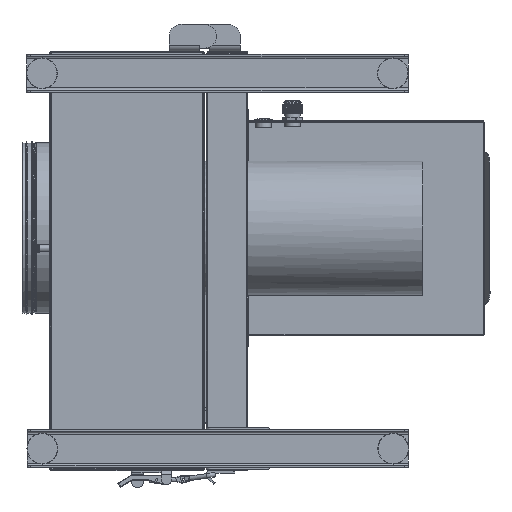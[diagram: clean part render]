
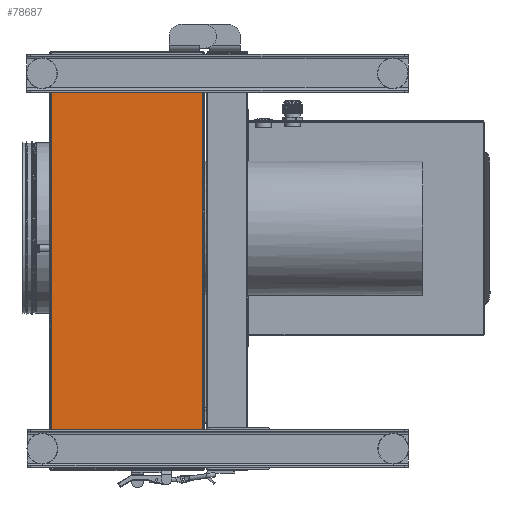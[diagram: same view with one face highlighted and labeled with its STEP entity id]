
A CAD part, left-side view. The second image highlights one B-rep face of the part: STEP entity #78687.
In plain terms, the highlighted planar face has unit normal (-1, 0, 0).
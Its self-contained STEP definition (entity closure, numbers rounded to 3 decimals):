
#10788=FACE_OUTER_BOUND('',#15047,.T.);
#15047=EDGE_LOOP('',(#62633,#62634,#62635,#62636));
#20054=LINE('',#119817,#27669);
#20129=LINE('',#120767,#27744);
#20206=LINE('',#121753,#27821);
#21179=LINE('',#128228,#28794);
#27669=VECTOR('',#92435,10.);
#27744=VECTOR('',#92594,10.);
#27821=VECTOR('',#92737,10.);
#28794=VECTOR('',#96636,10.);
#34774=VERTEX_POINT('',#118735);
#34779=VERTEX_POINT('',#118747);
#35385=VERTEX_POINT('',#120766);
#35444=VERTEX_POINT('',#121751);
#43956=EDGE_CURVE('',#34779,#34774,#20054,.T.);
#44076=EDGE_CURVE('',#35385,#34779,#20129,.T.);
#44186=EDGE_CURVE('',#34774,#35444,#20206,.T.);
#46081=EDGE_CURVE('',#35444,#35385,#21179,.T.);
#62633=ORIENTED_EDGE('',*,*,#46081,.T.);
#62634=ORIENTED_EDGE('',*,*,#44076,.T.);
#62635=ORIENTED_EDGE('',*,*,#43956,.T.);
#62636=ORIENTED_EDGE('',*,*,#44186,.T.);
#74970=PLANE('',#83688);
#78687=ADVANCED_FACE('',(#10788),#74970,.F.);
#83688=AXIS2_PLACEMENT_3D('',#128227,#96634,#96635);
#92435=DIRECTION('',(0.,-1.,0.));
#92594=DIRECTION('',(0.,0.,-1.));
#92737=DIRECTION('',(0.,0.,1.));
#96634=DIRECTION('center_axis',(1.,0.,0.));
#96635=DIRECTION('ref_axis',(0.,0.,-1.));
#96636=DIRECTION('',(0.,1.,0.));
#118735=CARTESIAN_POINT('',(0.,59.5,48.));
#118747=CARTESIAN_POINT('',(0.,257.5,48.));
#119817=CARTESIAN_POINT('',(0.,39.5,48.));
#120766=CARTESIAN_POINT('',(0.,257.5,502.));
#120767=CARTESIAN_POINT('',(0.,257.5,411.865));
#121751=CARTESIAN_POINT('',(0.,59.5,502.));
#121753=CARTESIAN_POINT('',(0.,59.5,138.465));
#128227=CARTESIAN_POINT('Origin',(0.,75.5,
531.));
#128228=CARTESIAN_POINT('',(0.,40.,502.));
